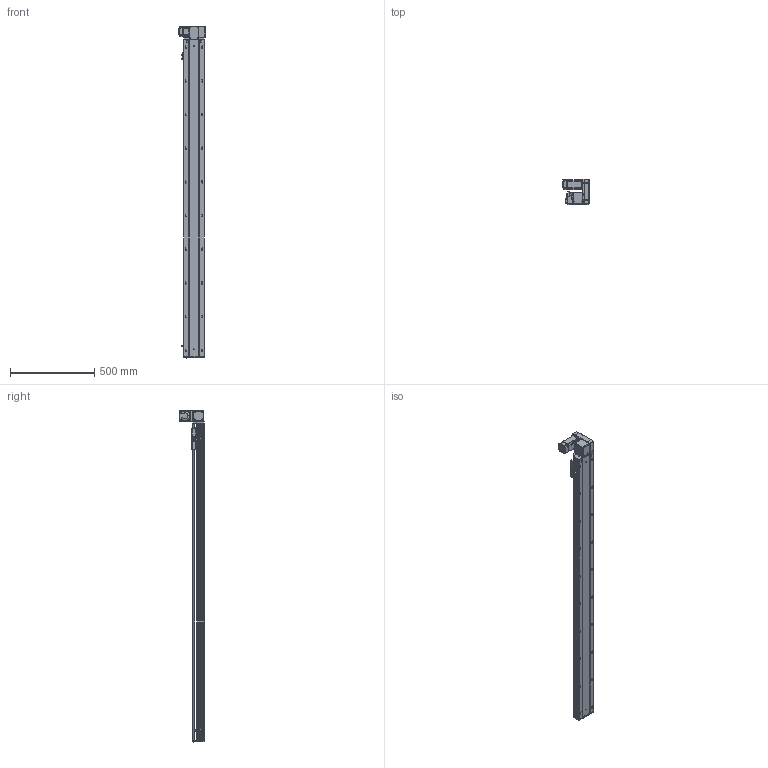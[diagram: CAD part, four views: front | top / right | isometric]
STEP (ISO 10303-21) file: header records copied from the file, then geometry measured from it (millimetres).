
FILE_DESCRIPTION (( 'STEP AP203' ), '1' );
FILE_NAME ('RY120-T-300-UR.SLDASM_1650.step', '2021-03-01T05:57:45', ( '盈信电脑' ), ( '东莞市道滘镇水果街19号' ), 'SwSTEP 2.0', 'SolidWorks 2012', '' );
FILE_SCHEMA (( 'CONFIG_CONTROL_DESIGN' ));
Products named in the file (17): RY120-T-300-UR.SLDASM_1650; RY120-T萇儂欶; RY120-T蹟翐M4; RY120-T主同步轮轴承压盖; RY120-T翋肮祭謫裔啣; 15; 滅袉蝶18-10; RY120-T肮祭湍揤踡輸2; RY120-T翋肮祭盓傅釱; RY120-T萇儂假蚾啣; RY120-T肮祭湍揤踡輸1; 覜茼ん672; RY120綴裔啣; RY120外置感应片(140共用）; RY120-T-300-UR倰第菁釱_1650; RY120-T-300-UR倰第奻裔啣_1650; RY120肮祭湍臏賑輸
Assembly tree (22 placements, depth 2):
  RY120-T-300-UR.SLDASM_1650
    RY120-T-300-UR倰第菁釱_1650
    RY120-T-300-UR倰第奻裔啣_1650
    RY120肮祭湍臏賑輸
    RY120綴裔啣
    覜茼ん672  x3
    RY120外置感应片(140共用）
    RY120-T肮祭湍揤踡輸1
    RY120-T肮祭湍揤踡輸2
    RY120-T翋肮祭盓傅釱
    RY120-T萇儂假蚾啣
    滅袉蝶18-10  x2
    RY120-T翋肮祭謫裔啣
    15
    RY120-T蹟翐M4  x4
    RY120-T萇儂欶
    RY120-T主同步轮轴承压盖
Bounding box: 155.5 x 146 x 1971 mm (x, y, z)
Volume: 5039651.5 mm3; surface area: 1914635.3 mm2
Topology: 23 solids, 23 shells, 3030 faces, 8288 edges, 5292 vertices
Faces by surface type: plane 1446, cylinder 1196, cone 299, bspline 89
Entity records: 97295 total; most frequent: CARTESIAN_POINT 25294, ORIENTED_EDGE 14912, DIRECTION 14062, EDGE_CURVE 7456, VERTEX_POINT 4879, AXIS2_PLACEMENT_3D 4759, LINE 4544, VECTOR 4544
